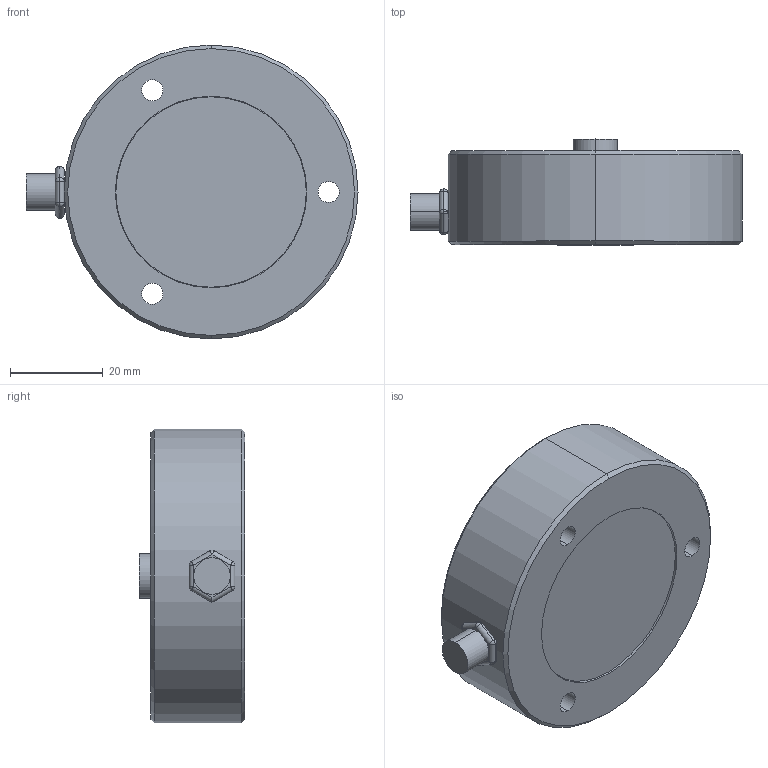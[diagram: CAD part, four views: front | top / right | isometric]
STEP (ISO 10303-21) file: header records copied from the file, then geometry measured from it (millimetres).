
FILE_DESCRIPTION (( 'STEP AP203' ), '1' );
FILE_NAME ('FINAL ASBY SS1175-10K.STEP', '2022-12-13T15:30:44', ( '' ), ( '' ), 'SwSTEP 2.0', 'SolidWorks 2008', '' );
FILE_SCHEMA (( 'CONFIG_CONTROL_DESIGN' ));
Length unit declared in the file: inch
Products named in the file (1): FINAL ASBY SS1175-10K
Bounding box: 71.75 x 22.86 x 63.5 mm (x, y, z)
Volume: 62711.7 mm3; surface area: 12000.8 mm2
Topology: 2 solids, 2 shells, 60 faces, 132 edges, 74 vertices
Faces by surface type: cylinder 34, sphere 12, plane 10, cone 4
Entity records: 1661 total; most frequent: DIRECTION 316, CARTESIAN_POINT 260, ORIENTED_EDGE 242, AXIS2_PLACEMENT_3D 136, EDGE_CURVE 121, CIRCLE 75, EDGE_LOOP 73, VERTEX_POINT 72
